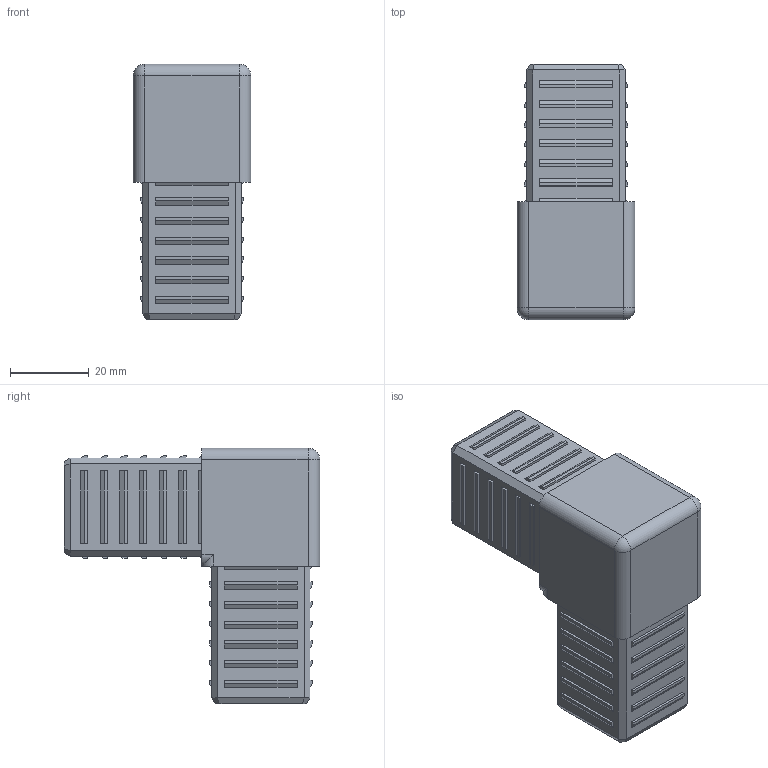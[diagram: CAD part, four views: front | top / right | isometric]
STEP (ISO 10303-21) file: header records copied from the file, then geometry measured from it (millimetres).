
FILE_DESCRIPTION (( 'STEP AP203' ), '1' );
FILE_NAME ('013.030.102.STEP', '2020-09-28T06:28:44', ( '' ), ( '' ), 'SwSTEP 2.0', 'SolidWorks 2018', '' );
FILE_SCHEMA (( 'CONFIG_CONTROL_DESIGN' ));
Length unit declared in the file: millimetre
Products named in the file (1): 013.030.102
Bounding box: 30 x 65 x 65 mm (x, y, z)
Volume: 32611.3 mm3; surface area: 25263.9 mm2
Topology: 1 solids, 1 shells, 351 faces, 883 edges, 578 vertices
Faces by surface type: plane 332, cylinder 17, sphere 2
Entity records: 10346 total; most frequent: CARTESIAN_POINT 1829, ORIENTED_EDGE 1762, DIRECTION 1601, EDGE_CURVE 881, LINE 853, VECTOR 853, VERTEX_POINT 578, EDGE_LOOP 405
